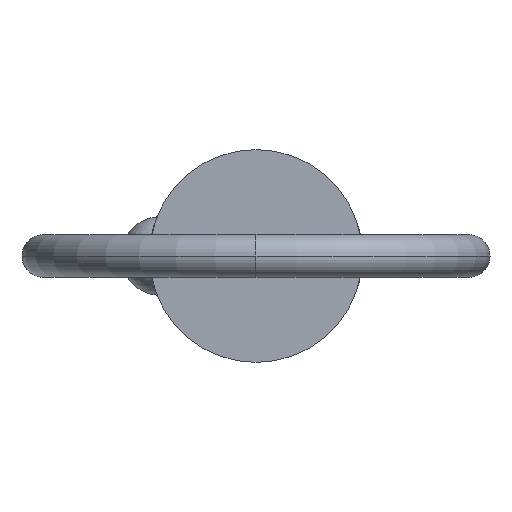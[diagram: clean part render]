
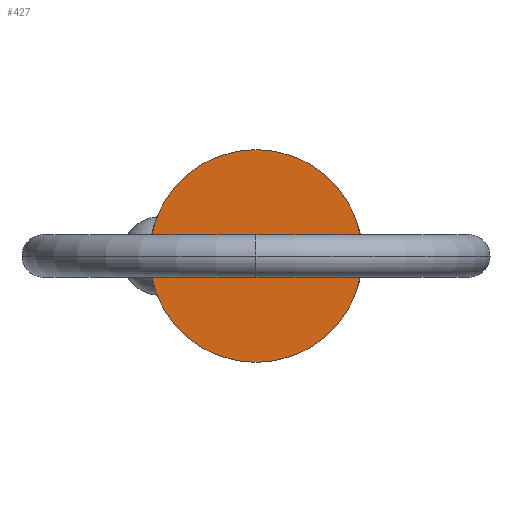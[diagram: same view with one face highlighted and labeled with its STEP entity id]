
A CAD part, left-side view. The second image highlights one B-rep face of the part: STEP entity #427.
In plain terms, the highlighted planar face has unit normal (-1, 0, 0).
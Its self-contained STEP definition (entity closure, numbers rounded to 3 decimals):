
#66 = CARTESIAN_POINT ( 'NONE',  ( 0., 0., 7.94 ) ) ;
#67 = CIRCLE ( 'NONE', #396, 7.94 ) ;
#110 = DIRECTION ( 'NONE',  ( 0., 0., 1. ) ) ;
#116 = PLANE ( 'NONE',  #323 ) ;
#142 = DIRECTION ( 'NONE',  ( 1., 0., 0. ) ) ;
#265 = VERTEX_POINT ( 'NONE', #482 ) ;
#323 = AXIS2_PLACEMENT_3D ( 'NONE', #404, #870, #110 ) ;
#391 = EDGE_CURVE ( 'NONE', #265, #737, #878, .T. ) ;
#396 = AXIS2_PLACEMENT_3D ( 'NONE', #900, #142, #695 ) ;
#404 = CARTESIAN_POINT ( 'NONE',  ( 0., 0., 0. ) ) ;
#427 = ADVANCED_FACE ( 'NONE', ( #541 ), #116, .T. ) ;
#482 = CARTESIAN_POINT ( 'NONE',  ( 0., 0., -7.94 ) ) ;
#519 = EDGE_LOOP ( 'NONE', ( #670, #881 ) ) ;
#541 = FACE_OUTER_BOUND ( 'NONE', #519, .T. ) ;
#670 = ORIENTED_EDGE ( 'NONE', *, *, #391, .F. ) ;
#674 = AXIS2_PLACEMENT_3D ( 'NONE', #712, #797, #861 ) ;
#695 = DIRECTION ( 'NONE',  ( 0., 0., -1. ) ) ;
#697 = EDGE_CURVE ( 'NONE', #737, #265, #67, .T. ) ;
#712 = CARTESIAN_POINT ( 'NONE',  ( 0., 0., 0. ) ) ;
#737 = VERTEX_POINT ( 'NONE', #66 ) ;
#797 = DIRECTION ( 'NONE',  ( 1., 0., 0. ) ) ;
#861 = DIRECTION ( 'NONE',  ( 0., 0., -1. ) ) ;
#870 = DIRECTION ( 'NONE',  ( -1., 0., 0. ) ) ;
#878 = CIRCLE ( 'NONE', #674, 7.94 ) ;
#881 = ORIENTED_EDGE ( 'NONE', *, *, #697, .F. ) ;
#900 = CARTESIAN_POINT ( 'NONE',  ( 0., 0., 0. ) ) ;
